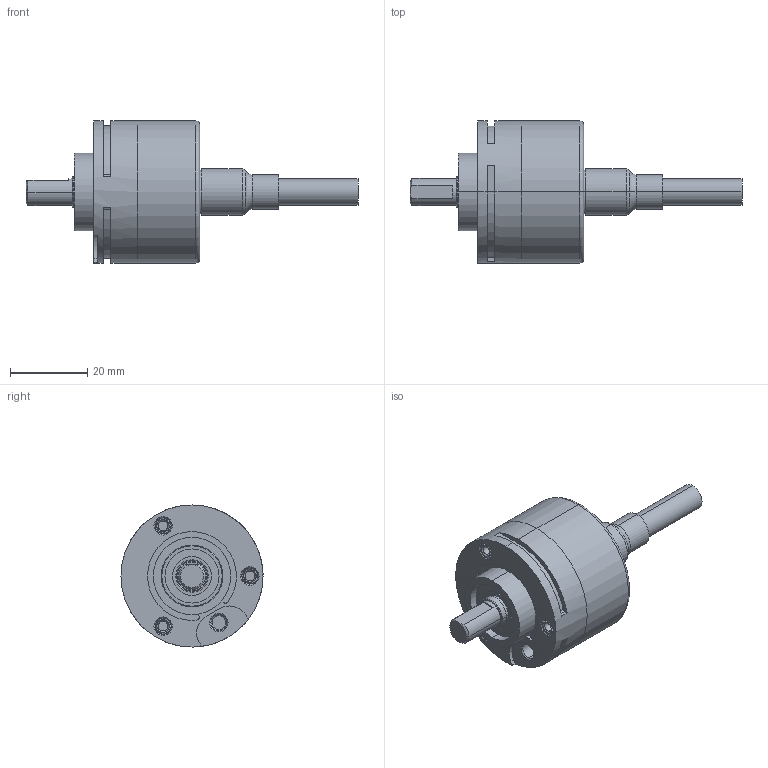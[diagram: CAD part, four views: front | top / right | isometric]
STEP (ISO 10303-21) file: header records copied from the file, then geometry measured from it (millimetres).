
FILE_DESCRIPTION (( 'STEP AP214' ), '1' );
FILE_NAME ('3700.15X1.XXXX.STEP', '2008-11-21T13:45:40', ( 'admin' ), ( 'Fritz Kübler GmbH' ), 'SwSTEP 2.0', 'SolidWorks 2008', '' );
FILE_SCHEMA (( 'AUTOMOTIVE_DESIGN' ));
Length unit declared in the file: millimetre
Products named in the file (1): 3700.15X1.XXXX
Bounding box: 86 x 36.8 x 36.8 mm (x, y, z)
Volume: 15737.4 mm3; surface area: 17789.1 mm2
Topology: 9 solids, 10 shells, 1088 faces, 2905 edges, 1822 vertices
Faces by surface type: plane 345, cylinder 332, bspline 171, torus 120, cone 79, sphere 41
Entity records: 50804 total; most frequent: CARTESIAN_POINT 14480, ORIENTED_EDGE 5684, DIRECTION 4724, EDGE_CURVE 2842, AXIS2_PLACEMENT_3D 2101, VERTEX_POINT 1788, CIRCLE 1183, EDGE_LOOP 1134
